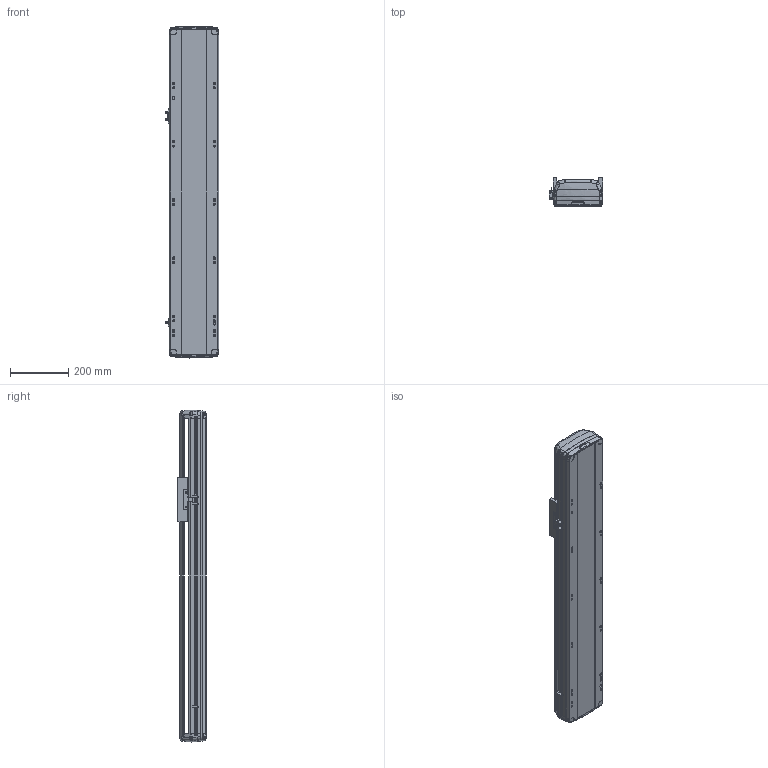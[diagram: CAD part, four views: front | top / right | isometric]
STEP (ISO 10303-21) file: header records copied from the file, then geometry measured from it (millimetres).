
FILE_DESCRIPTION (( 'STEP AP214' ), '1' );
FILE_NAME ('RTH17-XX-700-B-M40B-C4.STEP', '2025-10-24T09:16:37', ( '' ), ( '' ), 'SwSTEP 2.0', 'SolidWorks 2018', '' );
FILE_SCHEMA (( 'AUTOMOTIVE_DESIGN' ));
Length unit declared in the file: millimetre
Products named in the file (7): N_RTH17-M-011B底座^RTH17-XX-XX-B-M40B-C4（方程式）; N_RTH17-M-007B上盖^RTH17-XX-XX-B-M40B-C4（方程式）; RTH17-XX-700-B-M40B-C4; N_RTH-L-012 感应片(外置)^RTH17-XX-XX-B-M40B-C4（方程式）; N_OMRON EE-SX672 換覜ん^RTH17-XX-XX-B-M40B-C4ㄗ源最宒ㄘ; N_RTH17-E-004丝杆螺母连接座^RTH17-XX-XX-B-M40B-C4（方程式）; N_RTH17-GY-001P^RTH17-XX-XX-B-M40B-C4（方程式）
Assembly tree (9 placements, depth 2):
  RTH17-XX-700-B-M40B-C4
    N_RTH17-M-011B底座^RTH17-XX-XX-B-M40B-C4（方程式）
    N_RTH17-M-007B上盖^RTH17-XX-XX-B-M40B-C4（方程式）
    N_OMRON EE-SX672 換覜ん^RTH17-XX-XX-B-M40B-C4ㄗ源最宒ㄘ  x3
    N_RTH-L-012 感应片(外置)^RTH17-XX-XX-B-M40B-C4（方程式）
    N_RTH17-E-004丝杆螺母连接座^RTH17-XX-XX-B-M40B-C4（方程式）
    N_RTH17-GY-001P^RTH17-XX-XX-B-M40B-C4（方程式）  x2
Bounding box: 183.5 x 97 x 1139.88 mm (x, y, z)
Volume: 8387354.8 mm3; surface area: 1171295.9 mm2
Topology: 7 solids, 11 shells, 1736 faces, 4880 edges, 3170 vertices
Faces by surface type: plane 811, cylinder 459, bspline 420, cone 28, torus 18
Entity records: 41046 total; most frequent: CARTESIAN_POINT 17043, ORIENTED_EDGE 5264, DIRECTION 4156, EDGE_CURVE 2636, VERTEX_POINT 1724, LINE 1436, VECTOR 1436, AXIS2_PLACEMENT_3D 1360
